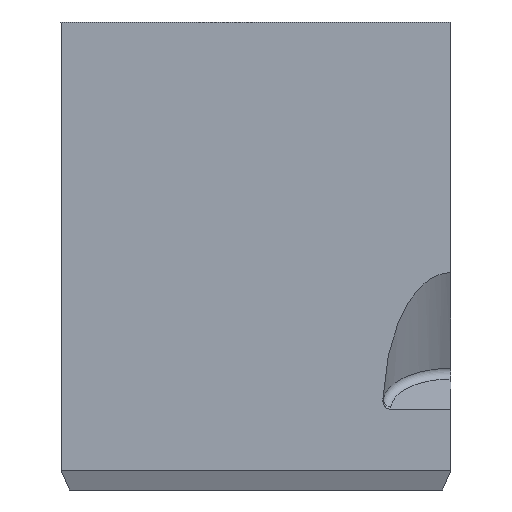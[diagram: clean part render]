
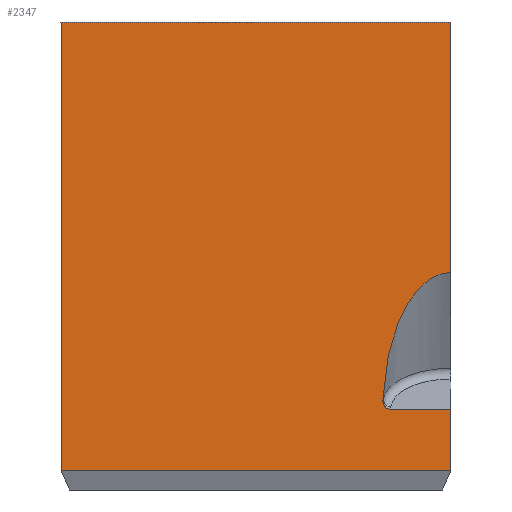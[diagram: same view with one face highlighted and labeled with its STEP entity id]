
A CAD part, left-side view. The second image highlights one B-rep face of the part: STEP entity #2347.
In plain terms, the highlighted planar face has unit normal (-1, 0, 0).
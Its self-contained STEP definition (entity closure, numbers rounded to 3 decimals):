
#257=DIRECTION('',(0.,1.,0.));
#258=VECTOR('',#257,10.);
#259=CARTESIAN_POINT('',(-2.5,-10.,0.));
#260=LINE('',#259,#258);
#621=DIRECTION('',(0.,0.,-1.));
#622=VECTOR('',#621,6.428);
#623=CARTESIAN_POINT('',(-2.5,-10.,0.));
#624=LINE('',#623,#622);
#625=DIRECTION('',(0.,0.,-1.));
#626=VECTOR('',#625,1.564);
#627=CARTESIAN_POINT('',(-2.5,-10.,-9.928));
#628=LINE('',#627,#626);
#629=DIRECTION('',(0.,1.,0.));
#630=VECTOR('',#629,10.);
#631=CARTESIAN_POINT('',(-2.5,-10.,-11.492));
#632=LINE('',#631,#630);
#633=DIRECTION('',(0.,0.,-1.));
#634=VECTOR('',#633,11.492);
#635=CARTESIAN_POINT('',(-2.5,0.,0.));
#636=LINE('',#635,#634);
#704=CARTESIAN_POINT('',(-2.5,-8.257,-9.623));
#705=CARTESIAN_POINT('',(-2.5,-8.274,-9.223));
#706=CARTESIAN_POINT('',(-2.5,-8.348,-8.674));
#707=CARTESIAN_POINT('',(-2.5,-8.524,-8.021));
#708=CARTESIAN_POINT('',(-2.5,-8.695,-7.573));
#709=CARTESIAN_POINT('',(-2.5,-8.909,-7.169));
#710=CARTESIAN_POINT('',(-2.5,-9.174,-6.819));
#711=CARTESIAN_POINT('',(-2.5,-9.451,-6.586));
#712=CARTESIAN_POINT('',(-2.5,-9.73,-6.46));
#713=CARTESIAN_POINT('',(-2.5,-9.9,-6.428));
#714=CARTESIAN_POINT('',(-2.5,-10.,-6.428));
#730=DIRECTION('',(0.,1.,0.));
#731=VECTOR('',#730,1.556);
#732=CARTESIAN_POINT('',(-2.5,-10.,-9.928));
#733=LINE('',#732,#731);
#743=CARTESIAN_POINT('',(-2.5,-8.444,-9.928));
#744=CARTESIAN_POINT('',(-2.5,-8.408,-9.928));
#745=CARTESIAN_POINT('',(-2.5,-8.356,-9.91));
#746=CARTESIAN_POINT('',(-2.5,-8.299,-9.86));
#747=CARTESIAN_POINT('',(-2.5,-8.262,-9.792));
#748=CARTESIAN_POINT('',(-2.5,-8.252,-9.733));
#749=CARTESIAN_POINT('',(-2.5,-8.253,-9.697));
#755=DIRECTION('',(0.,-0.044,0.999));
#756=VECTOR('',#755,0.074);
#757=CARTESIAN_POINT('',(-2.5,-8.253,-9.697));
#758=LINE('',#757,#756);
#797=CARTESIAN_POINT('',(-2.5,0.,-11.492));
#798=VERTEX_POINT('',#797);
#799=CARTESIAN_POINT('',(-2.5,-10.,-11.492));
#800=VERTEX_POINT('',#799);
#819=CARTESIAN_POINT('',(-2.5,-10.,-9.928));
#820=VERTEX_POINT('',#819);
#825=CARTESIAN_POINT('',(-2.5,-10.,-6.428));
#826=VERTEX_POINT('',#825);
#827=CARTESIAN_POINT('',(-2.5,-10.,0.));
#828=VERTEX_POINT('',#827);
#836=CARTESIAN_POINT('',(-2.5,0.,0.));
#837=VERTEX_POINT('',#836);
#853=VERTEX_POINT('',#704);
#854=CARTESIAN_POINT('',(-2.5,-8.253,-9.697));
#855=VERTEX_POINT('',#854);
#856=VERTEX_POINT('',#743);
#2326=CARTESIAN_POINT('',(-2.5,0.,-12.));
#2327=DIRECTION('',(-1.,0.,0.));
#2328=DIRECTION('',(0.,-1.,0.));
#2329=AXIS2_PLACEMENT_3D('',#2326,#2327,#2328);
#2330=PLANE('',#2329);
#2332=ORIENTED_EDGE('',*,*,#2331,.F.);
#2333=ORIENTED_EDGE('',*,*,#1167,.F.);
#2334=ORIENTED_EDGE('',*,*,#1130,.T.);
#2336=ORIENTED_EDGE('',*,*,#2335,.F.);
#2338=ORIENTED_EDGE('',*,*,#2337,.F.);
#2340=ORIENTED_EDGE('',*,*,#2339,.F.);
#2342=ORIENTED_EDGE('',*,*,#2341,.F.);
#2343=ORIENTED_EDGE('',*,*,#1122,.T.);
#2344=ORIENTED_EDGE('',*,*,#1054,.T.);
#2345=EDGE_LOOP('',(#2332,#2333,#2334,#2336,#2338,#2340,#2342,#2343,#2344));
#2346=FACE_OUTER_BOUND('',#2345,.F.);
#2347=ADVANCED_FACE('',(#2346),#2330,.T.);
#715=B_SPLINE_CURVE_WITH_KNOTS('',3,(#704,#705,#706,#707,#708,#709,#710,#711,
#712,#713,#714),.UNSPECIFIED.,.F.,.F.,(4,1,1,1,1,1,1,1,4),(0.,0.25,0.375,
0.5,0.625,0.75,0.875,0.938,1.),.UNSPECIFIED.);
#750=B_SPLINE_CURVE_WITH_KNOTS('',3,(#743,#744,#745,#746,#747,#748,#749),
.UNSPECIFIED.,.F.,.F.,(4,1,1,1,4),(0.,0.25,0.5,0.75,1.),
.UNSPECIFIED.);
#1054=EDGE_CURVE('',#800,#798,#632,.T.);
#1122=EDGE_CURVE('',#820,#800,#628,.T.);
#1130=EDGE_CURVE('',#828,#826,#624,.T.);
#1167=EDGE_CURVE('',#828,#837,#260,.T.);
#2331=EDGE_CURVE('',#837,#798,#636,.T.);
#2335=EDGE_CURVE('',#853,#826,#715,.T.);
#2337=EDGE_CURVE('',#855,#853,#758,.T.);
#2339=EDGE_CURVE('',#856,#855,#750,.T.);
#2341=EDGE_CURVE('',#820,#856,#733,.T.);
